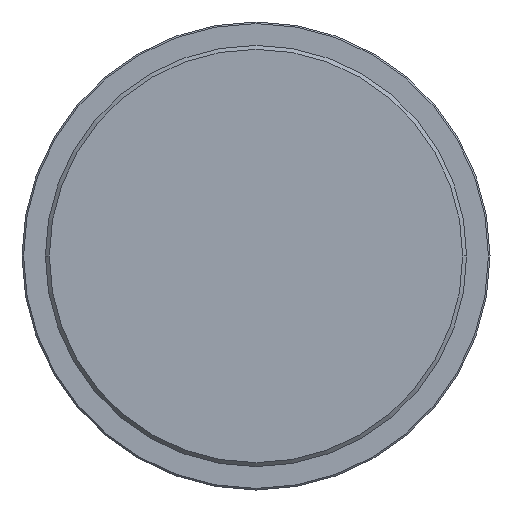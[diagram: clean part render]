
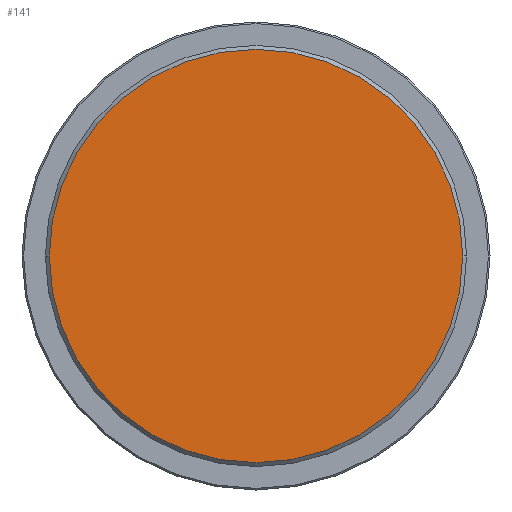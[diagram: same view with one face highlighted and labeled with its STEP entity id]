
A CAD part, left-side view. The second image highlights one B-rep face of the part: STEP entity #141.
In plain terms, the highlighted planar face has unit normal (-1, 0, 0).
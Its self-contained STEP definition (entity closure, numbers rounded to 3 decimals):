
#141 = ADVANCED_FACE ( 'NONE', ( #800 ), #799, .T. ) ;
#142 = EDGE_CURVE ( 'NONE', #354, #353, #797, .T. ) ;
#143 = EDGE_LOOP ( 'NONE', ( #152, #145 ) ) ;
#145 = ORIENTED_EDGE ( 'NONE', *, *, #364, .T. ) ;
#152 = ORIENTED_EDGE ( 'NONE', *, *, #142, .T. ) ;
#353 = VERTEX_POINT ( 'NONE', #1164 ) ;
#354 = VERTEX_POINT ( 'NONE', #1160 ) ;
#364 = EDGE_CURVE ( 'NONE', #353, #354, #1143, .T. ) ;
#797 = CIRCLE ( 'NONE', #855, 26.5 ) ;
#798 = AXIS2_PLACEMENT_3D ( 'NONE', #858, #857, #856 ) ;
#799 = PLANE ( 'NONE',  #798 ) ;
#800 = FACE_OUTER_BOUND ( 'NONE', #143, .T. ) ;
#852 = DIRECTION ( 'NONE',  ( 0., -1., 0. ) ) ;
#853 = DIRECTION ( 'NONE',  ( -1., 0., 0. ) ) ;
#854 = CARTESIAN_POINT ( 'NONE',  ( -168., 0., 0. ) ) ;
#855 = AXIS2_PLACEMENT_3D ( 'NONE', #854, #853, #852 ) ;
#856 = DIRECTION ( 'NONE',  ( 0., -1., 0. ) ) ;
#857 = DIRECTION ( 'NONE',  ( -1., 0., 0. ) ) ;
#858 = CARTESIAN_POINT ( 'NONE',  ( -168., 27., 0. ) ) ;
#1143 = CIRCLE ( 'NONE', #1203, 26.5 ) ;
#1160 = CARTESIAN_POINT ( 'NONE',  ( -168., 26.5, 0. ) ) ;
#1164 = CARTESIAN_POINT ( 'NONE',  ( -168., -26.5, 0. ) ) ;
#1200 = DIRECTION ( 'NONE',  ( 0., -1., 0. ) ) ;
#1201 = DIRECTION ( 'NONE',  ( -1., 0., 0. ) ) ;
#1202 = CARTESIAN_POINT ( 'NONE',  ( -168., 0., 0. ) ) ;
#1203 = AXIS2_PLACEMENT_3D ( 'NONE', #1202, #1201, #1200 ) ;
